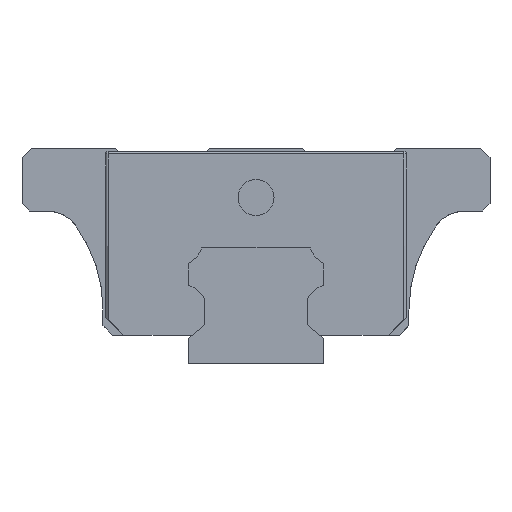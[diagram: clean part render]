
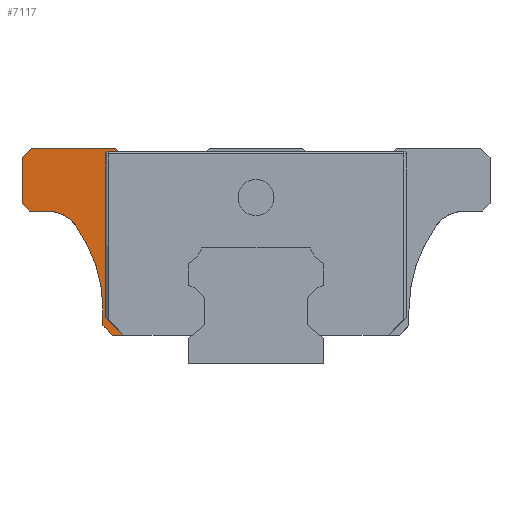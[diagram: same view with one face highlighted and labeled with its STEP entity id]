
A CAD part, left-side view. The second image highlights one B-rep face of the part: STEP entity #7117.
In plain terms, the highlighted planar face has unit normal (-1, 0, 0).
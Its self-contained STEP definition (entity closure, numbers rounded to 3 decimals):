
#11 = LINE ( 'NONE', #1183, #1933 ) ;
#36 = EDGE_CURVE ( 'NONE', #6293, #4883, #1874, .T. ) ;
#89 = AXIS2_PLACEMENT_3D ( 'NONE', #2303, #2269, #1716 ) ;
#118 = AXIS2_PLACEMENT_3D ( 'NONE', #5440, #4325, #3736 ) ;
#142 = LINE ( 'NONE', #5904, #2707 ) ;
#184 = ORIENTED_EDGE ( 'NONE', *, *, #415, .F. ) ;
#204 = CARTESIAN_POINT ( 'NONE',  ( -11.45, -18.027, 23.595 ) ) ;
#296 = LINE ( 'NONE', #7047, #3452 ) ;
#309 = DIRECTION ( 'NONE',  ( 0., 0., 1. ) ) ;
#407 = ORIENTED_EDGE ( 'NONE', *, *, #3408, .T. ) ;
#412 = DIRECTION ( 'NONE',  ( 1., 0., 0. ) ) ;
#415 = EDGE_CURVE ( 'NONE', #3970, #6422, #5137, .T. ) ;
#481 = EDGE_CURVE ( 'NONE', #621, #6920, #142, .T. ) ;
#621 = VERTEX_POINT ( 'NONE', #873 ) ;
#653 = EDGE_CURVE ( 'NONE', #6920, #984, #3793, .T. ) ;
#873 = CARTESIAN_POINT ( 'NONE',  ( -11.45, 15.26, 23.595 ) ) ;
#967 = EDGE_CURVE ( 'NONE', #621, #1097, #4203, .T. ) ;
#984 = VERTEX_POINT ( 'NONE', #5235 ) ;
#1097 = VERTEX_POINT ( 'NONE', #1974 ) ;
#1168 = VECTOR ( 'NONE', #2309, 1000. ) ;
#1183 = CARTESIAN_POINT ( 'NONE',  ( -11.45, 24.95, 24. ) ) ;
#1357 = DIRECTION ( 'NONE',  ( 0., -0.707, -0.707 ) ) ;
#1376 = DIRECTION ( 'NONE',  ( 0., 1., 0. ) ) ;
#1445 = CARTESIAN_POINT ( 'NONE',  ( -11.45, 26., 24. ) ) ;
#1494 = CARTESIAN_POINT ( 'NONE',  ( -11.45, 23.253, 17. ) ) ;
#1509 = ORIENTED_EDGE ( 'NONE', *, *, #5543, .T. ) ;
#1568 = EDGE_CURVE ( 'NONE', #4934, #6293, #2796, .T. ) ;
#1665 = DIRECTION ( 'NONE',  ( 0., -0.707, -0.707 ) ) ;
#1711 = DIRECTION ( 'NONE',  ( 0., 0., 1. ) ) ;
#1716 = DIRECTION ( 'NONE',  ( 0., 0., 1. ) ) ;
#1726 = DIRECTION ( 'NONE',  ( 0., 0., -1. ) ) ;
#1874 = CIRCLE ( 'NONE', #7287, 4. ) ;
#1933 = VECTOR ( 'NONE', #5604, 1000. ) ;
#1974 = CARTESIAN_POINT ( 'NONE',  ( -11.45, 16.442, 23.595 ) ) ;
#2204 = VECTOR ( 'NONE', #1357, 1000. ) ;
#2269 = DIRECTION ( 'NONE',  ( 1., 0., 0. ) ) ;
#2276 = CARTESIAN_POINT ( 'NONE',  ( -11.45, 25.2, 17. ) ) ;
#2303 = CARTESIAN_POINT ( 'NONE',  ( -11.45, 16.442, 23.335 ) ) ;
#2309 = DIRECTION ( 'NONE',  ( 0., -1., 0. ) ) ;
#2360 = CARTESIAN_POINT ( 'NONE',  ( -11.45, 15.95, 3.2 ) ) ;
#2366 = ORIENTED_EDGE ( 'NONE', *, *, #481, .T. ) ;
#2381 = ORIENTED_EDGE ( 'NONE', *, *, #6263, .F. ) ;
#2424 = DIRECTION ( 'NONE',  ( 0., 0.643, 0.766 ) ) ;
#2499 = VECTOR ( 'NONE', #4399, 1000. ) ;
#2518 = FACE_OUTER_BOUND ( 'NONE', #5517, .T. ) ;
#2575 = VECTOR ( 'NONE', #4226, 1000. ) ;
#2629 = CIRCLE ( 'NONE', #4765, 16. ) ;
#2664 = ORIENTED_EDGE ( 'NONE', *, *, #3654, .T. ) ;
#2676 = EDGE_CURVE ( 'NONE', #4883, #5487, #2629, .T. ) ;
#2702 = ORIENTED_EDGE ( 'NONE', *, *, #6557, .T. ) ;
#2707 = VECTOR ( 'NONE', #2424, 1000. ) ;
#2796 = LINE ( 'NONE', #2276, #1168 ) ;
#2834 = ORIENTED_EDGE ( 'NONE', *, *, #36, .T. ) ;
#2868 = ORIENTED_EDGE ( 'NONE', *, *, #4648, .T. ) ;
#2881 = VERTEX_POINT ( 'NONE', #5220 ) ;
#2957 = CARTESIAN_POINT ( 'NONE',  ( -11.45, 16.702, 23.125 ) ) ;
#2975 = VECTOR ( 'NONE', #1665, 1000. ) ;
#3071 = DIRECTION ( 'NONE',  ( 0., 0., -1. ) ) ;
#3081 = ORIENTED_EDGE ( 'NONE', *, *, #653, .T. ) ;
#3126 = ORIENTED_EDGE ( 'NONE', *, *, #3923, .T. ) ;
#3282 = CARTESIAN_POINT ( 'NONE',  ( -11.45, 25.2, 17. ) ) ;
#3355 = CARTESIAN_POINT ( 'NONE',  ( -11.45, 16.702, 5.2 ) ) ;
#3370 = VERTEX_POINT ( 'NONE', #6079 ) ;
#3401 = LINE ( 'NONE', #6065, #2499 ) ;
#3408 = EDGE_CURVE ( 'NONE', #984, #3370, #11, .T. ) ;
#3452 = VECTOR ( 'NONE', #3071, 1000. ) ;
#3501 = VERTEX_POINT ( 'NONE', #5152 ) ;
#3654 = EDGE_CURVE ( 'NONE', #2881, #4934, #7027, .T. ) ;
#3675 = CARTESIAN_POINT ( 'NONE',  ( -11.45, 33., 6. ) ) ;
#3716 = VECTOR ( 'NONE', #4633, 1000. ) ;
#3736 = DIRECTION ( 'NONE',  ( 0., 0., 1. ) ) ;
#3775 = CARTESIAN_POINT ( 'NONE',  ( -11.45, 17., 4.25 ) ) ;
#3793 = LINE ( 'NONE', #7040, #4577 ) ;
#3923 = EDGE_CURVE ( 'NONE', #5465, #5751, #6682, .T. ) ;
#3970 = VERTEX_POINT ( 'NONE', #5222 ) ;
#4041 = DIRECTION ( 'NONE',  ( 1., 0., 0. ) ) ;
#4166 = VECTOR ( 'NONE', #1376, 1000. ) ;
#4203 = LINE ( 'NONE', #204, #4166 ) ;
#4226 = DIRECTION ( 'NONE',  ( 0., 0., -1. ) ) ;
#4288 = CARTESIAN_POINT ( 'NONE',  ( -11.45, 20.004, 15.333 ) ) ;
#4290 = ORIENTED_EDGE ( 'NONE', *, *, #2676, .T. ) ;
#4293 = PLANE ( 'NONE',  #118 ) ;
#4325 = DIRECTION ( 'NONE',  ( -1., 0., 0. ) ) ;
#4399 = DIRECTION ( 'NONE',  ( 0., -1., 0. ) ) ;
#4577 = VECTOR ( 'NONE', #4872, 1000. ) ;
#4595 = VECTOR ( 'NONE', #1726, 1000. ) ;
#4633 = DIRECTION ( 'NONE',  ( 0., -0.707, -0.707 ) ) ;
#4648 = EDGE_CURVE ( 'NONE', #5751, #3501, #3401, .T. ) ;
#4673 = CARTESIAN_POINT ( 'NONE',  ( -11.45, 26., 17.8 ) ) ;
#4765 = AXIS2_PLACEMENT_3D ( 'NONE', #3675, #412, #309 ) ;
#4830 = EDGE_CURVE ( 'NONE', #5487, #5465, #296, .T. ) ;
#4872 = DIRECTION ( 'NONE',  ( 0., 1., 0. ) ) ;
#4883 = VERTEX_POINT ( 'NONE', #4288 ) ;
#4923 = ORIENTED_EDGE ( 'NONE', *, *, #4830, .T. ) ;
#4934 = VERTEX_POINT ( 'NONE', #3282 ) ;
#5137 = LINE ( 'NONE', #2957, #4595 ) ;
#5152 = CARTESIAN_POINT ( 'NONE',  ( -11.45, 14.702, 3.2 ) ) ;
#5166 = CIRCLE ( 'NONE', #89, 0.26 ) ;
#5220 = CARTESIAN_POINT ( 'NONE',  ( -11.45, 26., 17.8 ) ) ;
#5222 = CARTESIAN_POINT ( 'NONE',  ( -11.45, 16.702, 23.335 ) ) ;
#5235 = CARTESIAN_POINT ( 'NONE',  ( -11.45, 24.95, 24. ) ) ;
#5409 = CARTESIAN_POINT ( 'NONE',  ( -11.45, 17., 6. ) ) ;
#5440 = CARTESIAN_POINT ( 'NONE',  ( -11.45, -6.587, 3.2 ) ) ;
#5465 = VERTEX_POINT ( 'NONE', #3775 ) ;
#5483 = LINE ( 'NONE', #1445, #2575 ) ;
#5487 = VERTEX_POINT ( 'NONE', #5409 ) ;
#5517 = EDGE_LOOP ( 'NONE', ( #407, #1509, #2664, #6793, #2834, #4290, #4923, #3126, #2868, #2381, #184, #2702, #5564, #2366, #3081 ) ) ;
#5543 = EDGE_CURVE ( 'NONE', #3370, #2881, #5483, .T. ) ;
#5556 = CARTESIAN_POINT ( 'NONE',  ( -11.45, 17., 4.25 ) ) ;
#5564 = ORIENTED_EDGE ( 'NONE', *, *, #967, .F. ) ;
#5604 = DIRECTION ( 'NONE',  ( 0., 0.707, -0.707 ) ) ;
#5708 = CARTESIAN_POINT ( 'NONE',  ( -11.45, 23.253, 13. ) ) ;
#5751 = VERTEX_POINT ( 'NONE', #2360 ) ;
#5904 = CARTESIAN_POINT ( 'NONE',  ( -11.45, 15.233, 23.563 ) ) ;
#6065 = CARTESIAN_POINT ( 'NONE',  ( -11.45, 17.674, 3.2 ) ) ;
#6079 = CARTESIAN_POINT ( 'NONE',  ( -11.45, 26., 22.95 ) ) ;
#6263 = EDGE_CURVE ( 'NONE', #6422, #3501, #6555, .T. ) ;
#6293 = VERTEX_POINT ( 'NONE', #1494 ) ;
#6317 = CARTESIAN_POINT ( 'NONE',  ( -11.45, 15.6, 24. ) ) ;
#6422 = VERTEX_POINT ( 'NONE', #3355 ) ;
#6555 = LINE ( 'NONE', #7043, #2204 ) ;
#6557 = EDGE_CURVE ( 'NONE', #3970, #1097, #5166, .T. ) ;
#6682 = LINE ( 'NONE', #5556, #2975 ) ;
#6793 = ORIENTED_EDGE ( 'NONE', *, *, #1568, .T. ) ;
#6920 = VERTEX_POINT ( 'NONE', #6317 ) ;
#7027 = LINE ( 'NONE', #4673, #3716 ) ;
#7040 = CARTESIAN_POINT ( 'NONE',  ( -11.45, 15.6, 24. ) ) ;
#7043 = CARTESIAN_POINT ( 'NONE',  ( -11.45, 16.702, 5.2 ) ) ;
#7047 = CARTESIAN_POINT ( 'NONE',  ( -11.45, 17., 6. ) ) ;
#7117 = ADVANCED_FACE ( 'NONE', ( #2518 ), #4293, .T. ) ;
#7287 = AXIS2_PLACEMENT_3D ( 'NONE', #5708, #4041, #1711 ) ;
